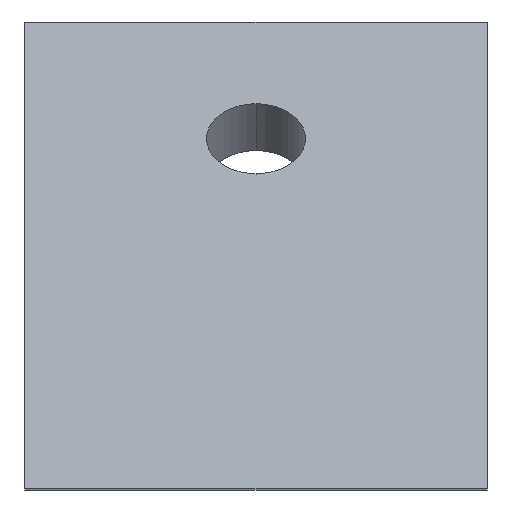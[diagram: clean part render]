
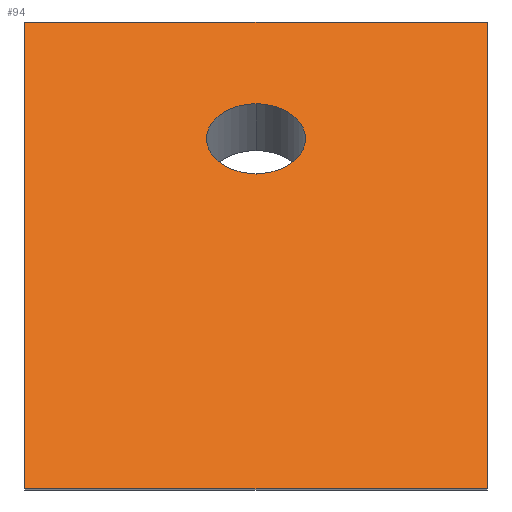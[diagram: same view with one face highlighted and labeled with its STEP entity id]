
A CAD part, top view. The second image highlights one B-rep face of the part: STEP entity #94.
In plain terms, the highlighted planar face has unit normal (0, 0.707, 0.707).
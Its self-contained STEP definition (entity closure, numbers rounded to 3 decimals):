
#4 = LINE ( 'NONE', #532, #567 ) ;
#17 = VECTOR ( 'NONE', #53, 1000. ) ;
#19 = DIRECTION ( 'NONE',  ( 0., 0.707, -0.707 ) ) ;
#34 = AXIS2_PLACEMENT_3D ( 'NONE', #137, #533, #190 ) ;
#53 = DIRECTION ( 'NONE',  ( 0., -0.707, 0.707 ) ) ;
#79 = VERTEX_POINT ( 'NONE', #680 ) ;
#92 = CARTESIAN_POINT ( 'NONE',  ( 42., 28.29, -3.918 ) ) ;
#94 = ADVANCED_FACE ( 'NONE', ( #337, #487 ), #459, .F. ) ;
#102 = LINE ( 'NONE', #92, #713 ) ;
#103 = DIRECTION ( 'NONE',  ( 0., 0.707, 0.707 ) ) ;
#110 = VECTOR ( 'NONE', #323, 1000. ) ;
#137 = CARTESIAN_POINT ( 'NONE',  ( 21., 17.684, 6.689 ) ) ;
#140 = EDGE_CURVE ( 'NONE', #228, #79, #601, .T. ) ;
#163 = ORIENTED_EDGE ( 'NONE', *, *, #612, .F. ) ;
#166 = CARTESIAN_POINT ( 'NONE',  ( 0., -14.136, 38.508 ) ) ;
#190 = DIRECTION ( 'NONE',  ( 0., -0.707, 0.707 ) ) ;
#195 = DIRECTION ( 'NONE',  ( 0., -0.707, 0.707 ) ) ;
#199 = CARTESIAN_POINT ( 'NONE',  ( 42., -14.136, 38.508 ) ) ;
#228 = VERTEX_POINT ( 'NONE', #307 ) ;
#260 = CARTESIAN_POINT ( 'NONE',  ( 42., 28.29, -3.918 ) ) ;
#263 = ORIENTED_EDGE ( 'NONE', *, *, #369, .T. ) ;
#307 = CARTESIAN_POINT ( 'NONE',  ( 21., 14.502, 9.871 ) ) ;
#321 = EDGE_CURVE ( 'NONE', #516, #392, #364, .T. ) ;
#323 = DIRECTION ( 'NONE',  ( -1., 0., 0. ) ) ;
#337 = FACE_BOUND ( 'NONE', #694, .T. ) ;
#345 = ORIENTED_EDGE ( 'NONE', *, *, #452, .F. ) ;
#349 = ORIENTED_EDGE ( 'NONE', *, *, #489, .T. ) ;
#350 = LINE ( 'NONE', #166, #17 ) ;
#352 = DIRECTION ( 'NONE',  ( 0., -0.707, -0.707 ) ) ;
#364 = LINE ( 'NONE', #723, #110 ) ;
#369 = EDGE_CURVE ( 'NONE', #504, #392, #350, .T. ) ;
#392 = VERTEX_POINT ( 'NONE', #506 ) ;
#420 = CARTESIAN_POINT ( 'NONE',  ( 0., 28.29, -3.918 ) ) ;
#427 = ORIENTED_EDGE ( 'NONE', *, *, #140, .F. ) ;
#438 = AXIS2_PLACEMENT_3D ( 'NONE', #439, #103, #495 ) ;
#439 = CARTESIAN_POINT ( 'NONE',  ( 21., 17.684, 6.689 ) ) ;
#452 = EDGE_CURVE ( 'NONE', #597, #516, #4, .T. ) ;
#459 = PLANE ( 'NONE',  #654 ) ;
#479 = EDGE_LOOP ( 'NONE', ( #263, #483, #345, #349 ) ) ;
#482 = DIRECTION ( 'NONE',  ( -1., 0., 0. ) ) ;
#483 = ORIENTED_EDGE ( 'NONE', *, *, #321, .F. ) ;
#487 = FACE_OUTER_BOUND ( 'NONE', #479, .T. ) ;
#489 = EDGE_CURVE ( 'NONE', #597, #504, #102, .T. ) ;
#495 = DIRECTION ( 'NONE',  ( 0., -0.707, 0.707 ) ) ;
#497 = CIRCLE ( 'NONE', #438, 4.5 ) ;
#504 = VERTEX_POINT ( 'NONE', #420 ) ;
#506 = CARTESIAN_POINT ( 'NONE',  ( 0., -14.136, 38.508 ) ) ;
#516 = VERTEX_POINT ( 'NONE', #199 ) ;
#532 = CARTESIAN_POINT ( 'NONE',  ( 42., -14.136, 38.508 ) ) ;
#533 = DIRECTION ( 'NONE',  ( 0., 0.707, 0.707 ) ) ;
#567 = VECTOR ( 'NONE', #195, 1000. ) ;
#597 = VERTEX_POINT ( 'NONE', #260 ) ;
#601 = CIRCLE ( 'NONE', #34, 4.5 ) ;
#612 = EDGE_CURVE ( 'NONE', #79, #228, #497, .T. ) ;
#631 = CARTESIAN_POINT ( 'NONE',  ( 42., -14.136, 38.508 ) ) ;
#654 = AXIS2_PLACEMENT_3D ( 'NONE', #631, #352, #19 ) ;
#680 = CARTESIAN_POINT ( 'NONE',  ( 21., 20.866, 3.507 ) ) ;
#694 = EDGE_LOOP ( 'NONE', ( #427, #163 ) ) ;
#713 = VECTOR ( 'NONE', #482, 1000. ) ;
#723 = CARTESIAN_POINT ( 'NONE',  ( 42., -14.136, 38.508 ) ) ;
